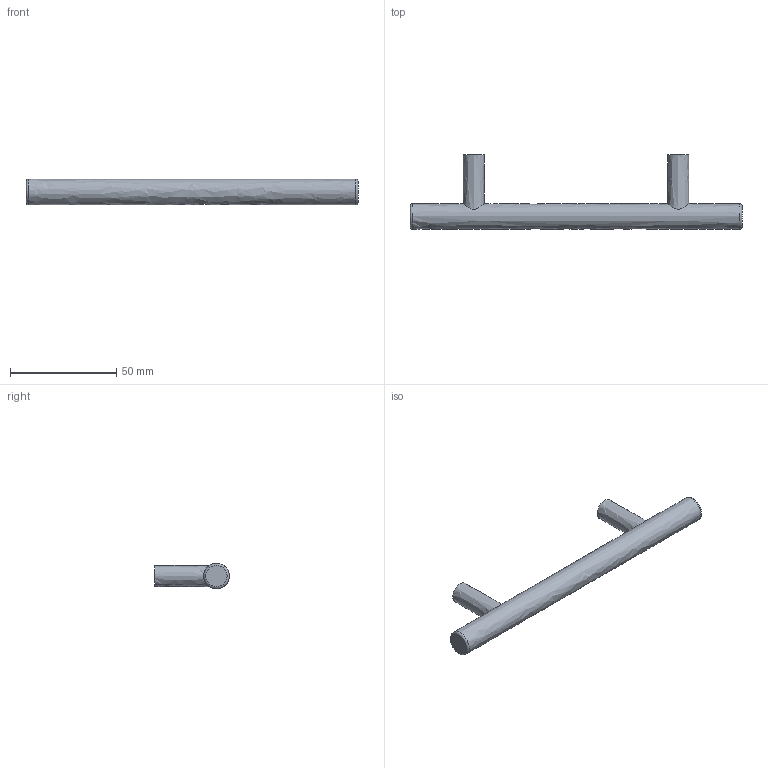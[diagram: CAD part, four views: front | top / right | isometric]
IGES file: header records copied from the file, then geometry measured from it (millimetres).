
Start section: Data from Parasolid IGES Translator 15.0.47, Copyright(c) 2006 Siemens P LM Software. All Rights Reserved.
Global section: file name: 9070674.igs; native system:  By UGS Corp.; preprocessor: XPlus GENERIC/IGES 3.0; author: Noname; organization: Noname; date: 20140123.103832; units: millimetre
Bounding box: 156 x 35 x 12 mm (x, y, z)
Surface area: 7778.8 mm2 (no closed solid volume)
Topology: 0 solids, 0 shells, 13 faces, 42 edges, 34 vertices
Faces by surface type: revolution 7, extrusion 6
